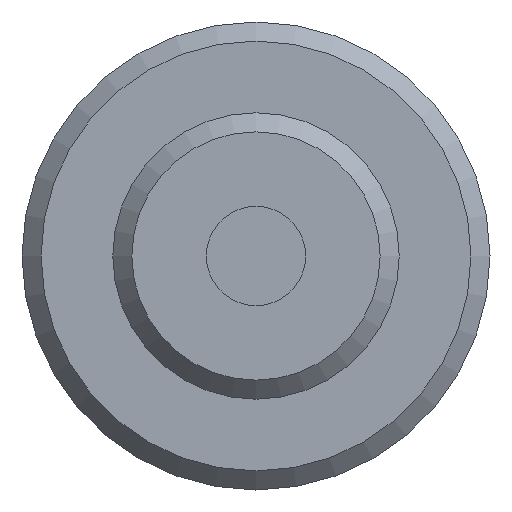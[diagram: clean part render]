
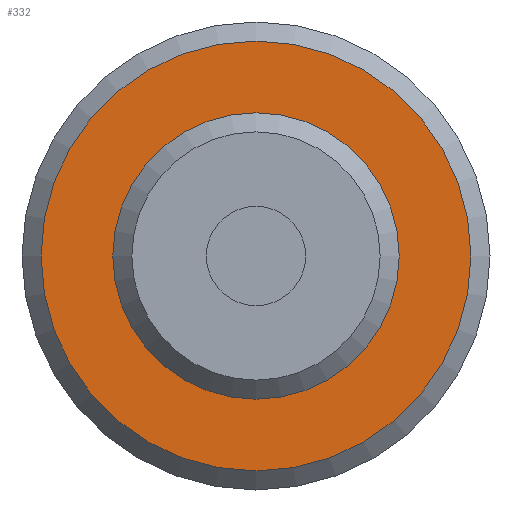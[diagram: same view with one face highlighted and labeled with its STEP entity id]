
A CAD part, front view. The second image highlights one B-rep face of the part: STEP entity #332.
In plain terms, the highlighted planar face has unit normal (0, -1, 0).
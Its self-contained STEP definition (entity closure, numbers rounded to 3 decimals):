
#27=FACE_BOUND('',#97,.T.);
#46=PLANE('',#390);
#66=FACE_OUTER_BOUND('',#96,.T.);
#96=EDGE_LOOP('',(#268));
#97=EDGE_LOOP('',(#269));
#158=CIRCLE('',#389,7.5);
#159=CIRCLE('',#391,11.25);
#183=VERTEX_POINT('',#583);
#184=VERTEX_POINT('',#587);
#213=EDGE_CURVE('',#183,#183,#158,.T.);
#215=EDGE_CURVE('',#184,#184,#159,.T.);
#268=ORIENTED_EDGE('',*,*,#215,.F.);
#269=ORIENTED_EDGE('',*,*,#213,.T.);
#332=ADVANCED_FACE('',(#66,#27),#46,.T.);
#389=AXIS2_PLACEMENT_3D('',#584,#468,#469);
#390=AXIS2_PLACEMENT_3D('',#586,#471,#472);
#391=AXIS2_PLACEMENT_3D('',#588,#473,#474);
#468=DIRECTION('center_axis',(0.,1.,0.));
#469=DIRECTION('ref_axis',(1.,0.,0.));
#471=DIRECTION('center_axis',(0.,-1.,0.));
#472=DIRECTION('ref_axis',(0.,0.,-1.));
#473=DIRECTION('center_axis',(0.,1.,0.));
#474=DIRECTION('ref_axis',(1.,0.,0.));
#583=CARTESIAN_POINT('',(0.,20.,-7.5));
#584=CARTESIAN_POINT('Origin',(0.,20.,0.));
#586=CARTESIAN_POINT('Origin',(0.,20.,11.25));
#587=CARTESIAN_POINT('',(0.,20.,-11.25));
#588=CARTESIAN_POINT('Origin',(0.,20.,0.));
